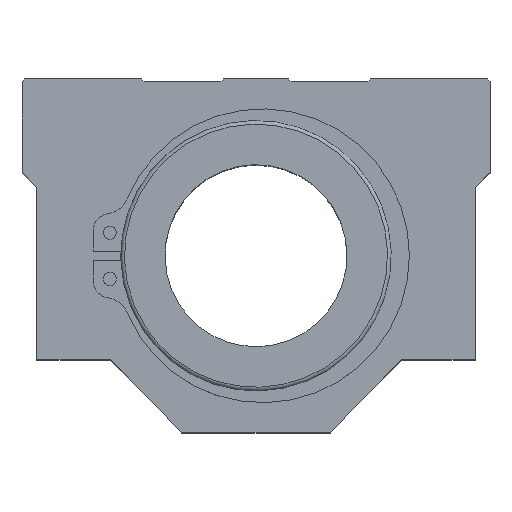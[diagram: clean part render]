
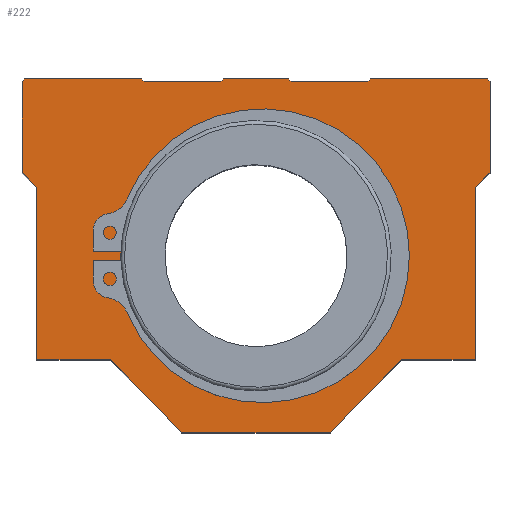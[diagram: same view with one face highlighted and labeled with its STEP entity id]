
A CAD part, top view. The second image highlights one B-rep face of the part: STEP entity #222.
In plain terms, the highlighted planar face has unit normal (0, 0, 1).
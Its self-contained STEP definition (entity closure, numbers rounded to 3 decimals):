
#222=ADVANCED_FACE('',(#298,#299),#300,.F.);
#298=FACE_OUTER_BOUND('',#477,.T.);
#299=FACE_BOUND('',#478,.T.);
#300=PLANE('',#479);
#477=EDGE_LOOP('',(#671,#672,#673,#674,#675,#676,#677,#678,#679,#680,#681,#682,#683,#684,#685,#686,#687,#688,#689,#690,#691,#692));
#478=EDGE_LOOP('',(#693));
#479=AXIS2_PLACEMENT_3D('',#694,#695,#696);
#671=ORIENTED_EDGE('',*,*,#1184,.F.);
#672=ORIENTED_EDGE('',*,*,#1185,.F.);
#673=ORIENTED_EDGE('',*,*,#1186,.F.);
#674=ORIENTED_EDGE('',*,*,#1187,.F.);
#675=ORIENTED_EDGE('',*,*,#1188,.F.);
#676=ORIENTED_EDGE('',*,*,#1189,.F.);
#677=ORIENTED_EDGE('',*,*,#1190,.F.);
#678=ORIENTED_EDGE('',*,*,#1191,.F.);
#679=ORIENTED_EDGE('',*,*,#1192,.F.);
#680=ORIENTED_EDGE('',*,*,#1193,.F.);
#681=ORIENTED_EDGE('',*,*,#1194,.F.);
#682=ORIENTED_EDGE('',*,*,#1195,.F.);
#683=ORIENTED_EDGE('',*,*,#1196,.F.);
#684=ORIENTED_EDGE('',*,*,#1197,.F.);
#685=ORIENTED_EDGE('',*,*,#1198,.F.);
#686=ORIENTED_EDGE('',*,*,#1199,.F.);
#687=ORIENTED_EDGE('',*,*,#1200,.F.);
#688=ORIENTED_EDGE('',*,*,#1201,.F.);
#689=ORIENTED_EDGE('',*,*,#1202,.F.);
#690=ORIENTED_EDGE('',*,*,#1203,.F.);
#691=ORIENTED_EDGE('',*,*,#1180,.F.);
#692=ORIENTED_EDGE('',*,*,#1177,.F.);
#693=ORIENTED_EDGE('',*,*,#1204,.F.);
#694=CARTESIAN_POINT('',(-33.25,45.25,22.7));
#695=DIRECTION('',(0.0,0.0,-1.0));
#696=DIRECTION('',(0.0,1.0,0.0));
#1177=EDGE_CURVE('',#1335,#1337,#1338,.T.);
#1180=EDGE_CURVE('',#1337,#1342,#1343,.T.);
#1184=EDGE_CURVE('',#1347,#1335,#1349,.T.);
#1185=EDGE_CURVE('',#1350,#1347,#1351,.T.);
#1186=EDGE_CURVE('',#1352,#1350,#1353,.T.);
#1187=EDGE_CURVE('',#1354,#1352,#1355,.T.);
#1188=EDGE_CURVE('',#1356,#1354,#1357,.T.);
#1189=EDGE_CURVE('',#1358,#1356,#1359,.T.);
#1190=EDGE_CURVE('',#1360,#1358,#1361,.T.);
#1191=EDGE_CURVE('',#1362,#1360,#1363,.T.);
#1192=EDGE_CURVE('',#1364,#1362,#1365,.T.);
#1193=EDGE_CURVE('',#1366,#1364,#1367,.T.);
#1194=EDGE_CURVE('',#1368,#1366,#1369,.T.);
#1195=EDGE_CURVE('',#1370,#1368,#1371,.T.);
#1196=EDGE_CURVE('',#1372,#1370,#1373,.T.);
#1197=EDGE_CURVE('',#1374,#1372,#1375,.T.);
#1198=EDGE_CURVE('',#1376,#1374,#1377,.T.);
#1199=EDGE_CURVE('',#1378,#1376,#1379,.T.);
#1200=EDGE_CURVE('',#1380,#1378,#1381,.T.);
#1201=EDGE_CURVE('',#1382,#1380,#1383,.T.);
#1202=EDGE_CURVE('',#1384,#1382,#1385,.T.);
#1203=EDGE_CURVE('',#1342,#1384,#1386,.T.);
#1204=EDGE_CURVE('',#1387,#1387,#1388,.F.);
#1335=VERTEX_POINT('',#1606);
#1337=VERTEX_POINT('',#1609);
#1338=LINE('',#1610,#1611);
#1342=VERTEX_POINT('',#1617);
#1343=LINE('',#1618,#1619);
#1347=VERTEX_POINT('',#1625);
#1349=LINE('',#1628,#1629);
#1350=VERTEX_POINT('',#1630);
#1351=LINE('',#1631,#1632);
#1352=VERTEX_POINT('',#1633);
#1353=LINE('',#1634,#1635);
#1354=VERTEX_POINT('',#1636);
#1355=LINE('',#1637,#1638);
#1356=VERTEX_POINT('',#1639);
#1357=LINE('',#1640,#1641);
#1358=VERTEX_POINT('',#1642);
#1359=LINE('',#1643,#1644);
#1360=VERTEX_POINT('',#1645);
#1361=LINE('',#1646,#1647);
#1362=VERTEX_POINT('',#1648);
#1363=LINE('',#1649,#1650);
#1364=VERTEX_POINT('',#1651);
#1365=LINE('',#1652,#1653);
#1366=VERTEX_POINT('',#1654);
#1367=LINE('',#1655,#1656);
#1368=VERTEX_POINT('',#1657);
#1369=LINE('',#1658,#1659);
#1370=VERTEX_POINT('',#1660);
#1371=LINE('',#1661,#1662);
#1372=VERTEX_POINT('',#1663);
#1373=LINE('',#1664,#1665);
#1374=VERTEX_POINT('',#1666);
#1375=LINE('',#1667,#1668);
#1376=VERTEX_POINT('',#1669);
#1377=LINE('',#1670,#1671);
#1378=VERTEX_POINT('',#1672);
#1379=LINE('',#1673,#1674);
#1380=VERTEX_POINT('',#1675);
#1381=LINE('',#1676,#1677);
#1382=VERTEX_POINT('',#1678);
#1383=LINE('',#1679,#1680);
#1384=VERTEX_POINT('',#1681);
#1385=LINE('',#1682,#1683);
#1386=LINE('',#1684,#1685);
#1387=VERTEX_POINT('',#1686);
#1388=CIRCLE('',#1687,26.0);
#1606=CARTESIAN_POINT('',(-44.5,34.0,22.7));
#1609=CARTESIAN_POINT('',(-22.0,34.0,22.7));
#1610=CARTESIAN_POINT('',(-44.5,34.0,22.7));
#1611=VECTOR('',#1977,1.0);
#1617=CARTESIAN_POINT('',(-21.5,33.5,22.7));
#1618=CARTESIAN_POINT('',(-22.0,34.0,22.7));
#1619=VECTOR('',#1980,1.0);
#1625=CARTESIAN_POINT('',(-45.0,33.5,22.7));
#1628=CARTESIAN_POINT('',(-45.0,33.5,22.7));
#1629=VECTOR('',#1984,1.0);
#1630=CARTESIAN_POINT('',(-45.0,16.0,22.7));
#1631=CARTESIAN_POINT('',(-45.0,16.0,22.7));
#1632=VECTOR('',#1985,1.0);
#1633=CARTESIAN_POINT('',(-42.15,13.15,22.7));
#1634=CARTESIAN_POINT('',(-42.15,13.15,22.7));
#1635=VECTOR('',#1986,1.0);
#1636=CARTESIAN_POINT('',(-42.15,-20.0,22.7));
#1637=CARTESIAN_POINT('',(-42.15,-20.0,22.7));
#1638=VECTOR('',#1987,1.0);
#1639=CARTESIAN_POINT('',(-28.0,-20.0,22.7));
#1640=CARTESIAN_POINT('',(-28.0,-20.0,22.7));
#1641=VECTOR('',#1988,1.0);
#1642=CARTESIAN_POINT('',(-14.25,-34.0,22.7));
#1643=CARTESIAN_POINT('',(-14.25,-34.0,22.7));
#1644=VECTOR('',#1989,1.0);
#1645=CARTESIAN_POINT('',(14.25,-34.0,22.7));
#1646=CARTESIAN_POINT('',(14.25,-34.0,22.7));
#1647=VECTOR('',#1990,1.0);
#1648=CARTESIAN_POINT('',(28.0,-20.0,22.7));
#1649=CARTESIAN_POINT('',(28.0,-20.0,22.7));
#1650=VECTOR('',#1991,1.0);
#1651=CARTESIAN_POINT('',(42.15,-20.0,22.7));
#1652=CARTESIAN_POINT('',(42.15,-20.0,22.7));
#1653=VECTOR('',#1992,1.0);
#1654=CARTESIAN_POINT('',(42.15,13.15,22.7));
#1655=CARTESIAN_POINT('',(42.15,13.15,22.7));
#1656=VECTOR('',#1993,1.0);
#1657=CARTESIAN_POINT('',(45.0,16.0,22.7));
#1658=CARTESIAN_POINT('',(45.0,16.0,22.7));
#1659=VECTOR('',#1994,1.0);
#1660=CARTESIAN_POINT('',(45.0,33.5,22.7));
#1661=CARTESIAN_POINT('',(45.0,33.5,22.7));
#1662=VECTOR('',#1995,1.0);
#1663=CARTESIAN_POINT('',(44.5,34.0,22.7));
#1664=CARTESIAN_POINT('',(44.5,34.0,22.7));
#1665=VECTOR('',#1996,1.0);
#1666=CARTESIAN_POINT('',(22.0,34.0,22.7));
#1667=CARTESIAN_POINT('',(22.0,34.0,22.7));
#1668=VECTOR('',#1997,1.0);
#1669=CARTESIAN_POINT('',(21.5,33.5,22.7));
#1670=CARTESIAN_POINT('',(21.5,33.5,22.7));
#1671=VECTOR('',#1998,1.0);
#1672=CARTESIAN_POINT('',(6.75,33.5,22.7));
#1673=CARTESIAN_POINT('',(6.75,33.5,22.7));
#1674=VECTOR('',#1999,1.0);
#1675=CARTESIAN_POINT('',(6.25,34.0,22.7));
#1676=CARTESIAN_POINT('',(6.25,34.0,22.7));
#1677=VECTOR('',#2000,1.0);
#1678=CARTESIAN_POINT('',(-6.25,34.0,22.7));
#1679=CARTESIAN_POINT('',(-6.25,34.0,22.7));
#1680=VECTOR('',#2001,1.0);
#1681=CARTESIAN_POINT('',(-6.75,33.5,22.7));
#1682=CARTESIAN_POINT('',(-6.75,33.5,22.7));
#1683=VECTOR('',#2002,1.0);
#1684=CARTESIAN_POINT('',(-21.5,33.5,22.7));
#1685=VECTOR('',#2003,1.0);
#1686=CARTESIAN_POINT('',(-26.0,0.,22.7));
#1687=AXIS2_PLACEMENT_3D('',#2004,#2005,#2006);
#1977=DIRECTION('',(1.0,0.0,0.0));
#1980=DIRECTION('',(0.707,-0.707,0.0));
#1984=DIRECTION('',(0.707,0.707,0.0));
#1985=DIRECTION('',(0.0,1.0,0.0));
#1986=DIRECTION('',(-0.707,0.707,0.0));
#1987=DIRECTION('',(0.0,1.0,0.0));
#1988=DIRECTION('',(-1.0,0.0,0.0));
#1989=DIRECTION('',(-0.701,0.713,0.0));
#1990=DIRECTION('',(-1.0,0.0,0.0));
#1991=DIRECTION('',(-0.701,-0.713,0.0));
#1992=DIRECTION('',(-1.0,0.0,0.0));
#1993=DIRECTION('',(0.0,-1.0,0.0));
#1994=DIRECTION('',(-0.707,-0.707,0.0));
#1995=DIRECTION('',(0.0,-1.0,0.0));
#1996=DIRECTION('',(0.707,-0.707,0.0));
#1997=DIRECTION('',(1.0,0.0,0.0));
#1998=DIRECTION('',(0.707,0.707,0.0));
#1999=DIRECTION('',(1.0,0.0,0.0));
#2000=DIRECTION('',(0.707,-0.707,0.0));
#2001=DIRECTION('',(1.0,0.0,0.0));
#2002=DIRECTION('',(0.707,0.707,0.0));
#2003=DIRECTION('',(1.0,0.0,0.0));
#2004=CARTESIAN_POINT('',(0.,0.0,22.7));
#2005=DIRECTION('',(0.0,0.0,-1.0));
#2006=DIRECTION('',(-1.0,0.0,0.0));
